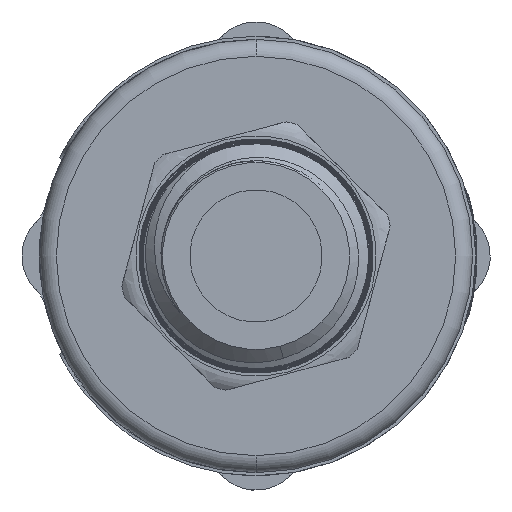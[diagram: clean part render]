
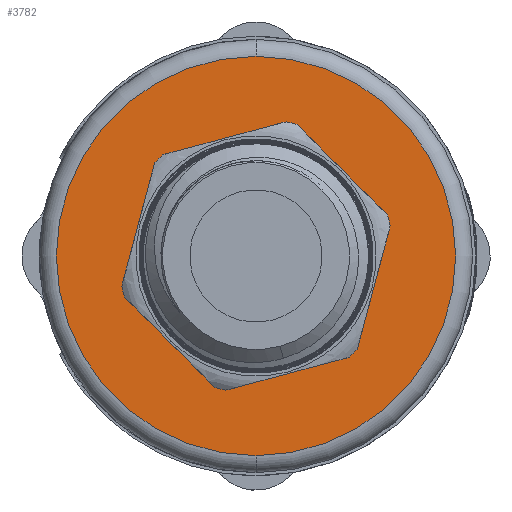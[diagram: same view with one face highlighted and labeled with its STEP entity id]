
A CAD part, front view. The second image highlights one B-rep face of the part: STEP entity #3782.
In plain terms, the highlighted planar face has unit normal (0, -1, 0).
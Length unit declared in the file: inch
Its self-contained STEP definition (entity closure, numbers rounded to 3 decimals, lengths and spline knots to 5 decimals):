
#81 = CIRCLE ( 'NONE', #12429, 0.46063 ) ;
#262 = AXIS2_PLACEMENT_3D ( 'NONE', #4883, #10372, #1451 ) ;
#344 = VERTEX_POINT ( 'NONE', #13865 ) ;
#650 = VERTEX_POINT ( 'NONE', #11063 ) ;
#911 = CARTESIAN_POINT ( 'NONE',  ( 0., 0.15748, 0. ) ) ;
#947 = CIRCLE ( 'NONE', #11178, 0.1875 ) ;
#1366 = EDGE_CURVE ( 'NONE', #18812, #2373, #9474, .T. ) ;
#1451 = DIRECTION ( 'NONE',  ( 0., 0., -1. ) ) ;
#1897 = ORIENTED_EDGE ( 'NONE', *, *, #18281, .F. ) ;
#2373 = VERTEX_POINT ( 'NONE', #14976 ) ;
#3698 = DIRECTION ( 'NONE',  ( 0., -1., 0. ) ) ;
#3782 = ADVANCED_FACE ( 'NONE', ( #17024, #11769 ), #10442, .T. ) ;
#4018 = DIRECTION ( 'NONE',  ( 0., -1., 0. ) ) ;
#4150 = CIRCLE ( 'NONE', #262, 0.1875 ) ;
#4389 = DIRECTION ( 'NONE',  ( 0., 0., -1. ) ) ;
#4604 = CARTESIAN_POINT ( 'NONE',  ( 0., 0.15748, 0. ) ) ;
#4615 = ORIENTED_EDGE ( 'NONE', *, *, #1366, .T. ) ;
#4883 = CARTESIAN_POINT ( 'NONE',  ( 0., 0.15748, 0. ) ) ;
#5589 = AXIS2_PLACEMENT_3D ( 'NONE', #13393, #16699, #9899 ) ;
#6013 = DIRECTION ( 'NONE',  ( 0., 0., -1. ) ) ;
#6672 = ORIENTED_EDGE ( 'NONE', *, *, #17782, .F. ) ;
#7728 = EDGE_LOOP ( 'NONE', ( #1897, #6672 ) ) ;
#9474 = CIRCLE ( 'NONE', #5589, 0.46063 ) ;
#9832 = EDGE_CURVE ( 'NONE', #2373, #18812, #81, .T. ) ;
#9899 = DIRECTION ( 'NONE',  ( 0., 0., -1. ) ) ;
#10372 = DIRECTION ( 'NONE',  ( 0., -1., 0. ) ) ;
#10442 = PLANE ( 'NONE',  #12675 ) ;
#11063 = CARTESIAN_POINT ( 'NONE',  ( 0., 0.15748, 0.1875 ) ) ;
#11124 = CARTESIAN_POINT ( 'NONE',  ( 0., 0.15748, 0.46063 ) ) ;
#11178 = AXIS2_PLACEMENT_3D ( 'NONE', #4604, #19474, #4389 ) ;
#11769 = FACE_BOUND ( 'NONE', #7728, .T. ) ;
#11976 = CARTESIAN_POINT ( 'NONE',  ( 0., 0.15748, 0. ) ) ;
#12429 = AXIS2_PLACEMENT_3D ( 'NONE', #911, #4018, #6013 ) ;
#12675 = AXIS2_PLACEMENT_3D ( 'NONE', #11976, #3698, #18463 ) ;
#13393 = CARTESIAN_POINT ( 'NONE',  ( 0., 0.15748, 0. ) ) ;
#13865 = CARTESIAN_POINT ( 'NONE',  ( 0., 0.15748, -0.1875 ) ) ;
#14976 = CARTESIAN_POINT ( 'NONE',  ( 0., 0.15748, -0.46063 ) ) ;
#16508 = EDGE_LOOP ( 'NONE', ( #19263, #4615 ) ) ;
#16699 = DIRECTION ( 'NONE',  ( 0., -1., 0. ) ) ;
#17024 = FACE_OUTER_BOUND ( 'NONE', #16508, .T. ) ;
#17782 = EDGE_CURVE ( 'NONE', #650, #344, #947, .T. ) ;
#18281 = EDGE_CURVE ( 'NONE', #344, #650, #4150, .T. ) ;
#18463 = DIRECTION ( 'NONE',  ( 0., 0., -1. ) ) ;
#18812 = VERTEX_POINT ( 'NONE', #11124 ) ;
#19263 = ORIENTED_EDGE ( 'NONE', *, *, #9832, .T. ) ;
#19474 = DIRECTION ( 'NONE',  ( 0., -1., 0. ) ) ;
